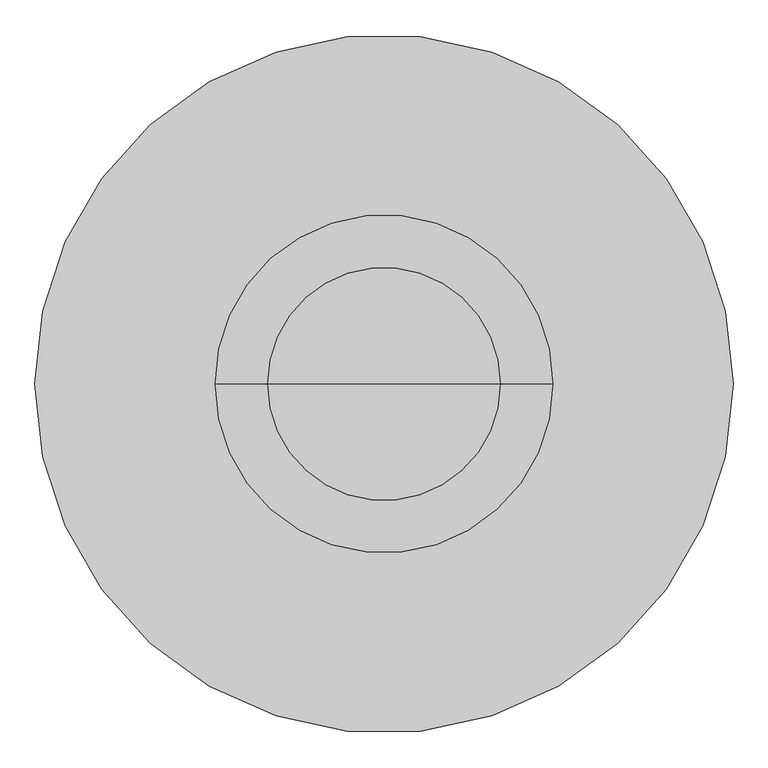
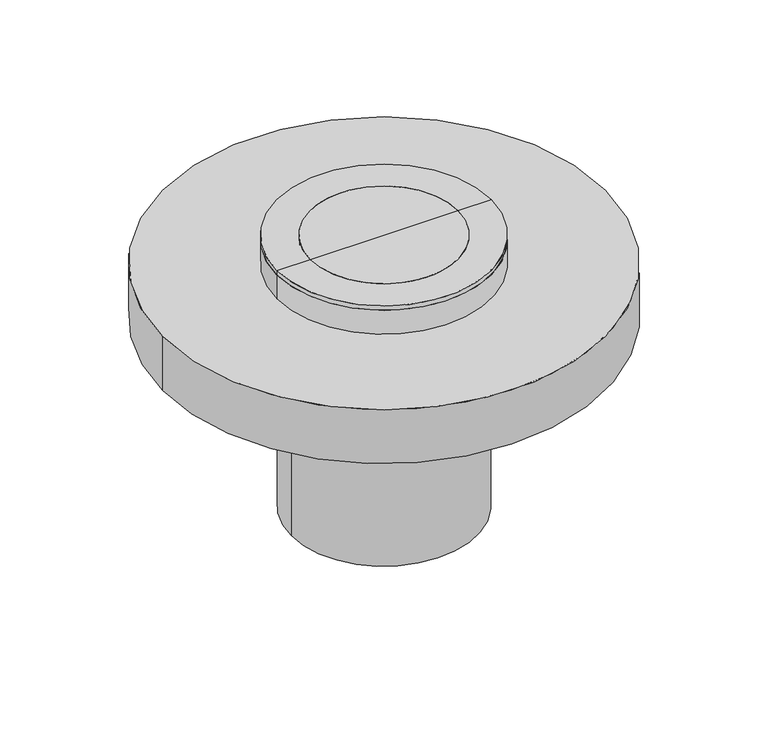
"""IFC4 building model written with IfcOpenShell, lengths in millimetres: unitary equipment geometry, ME_PE_UN_Mulimax loadclass D400_ACO : Duo cover screwed shut odour-proof."""

import ifcopenshell
import ifcopenshell.guid

model = None  # the IFC model being written
_history = None  # IfcOwnerHistory: only IFC2X3 demands one
_inside = {}  # id of a spatial element -> (the spatial element, [elements in it])
_under = {}  # id of a project, library or spatial element -> (it, [spatial elements below it])
_declared = {}  # id of a project -> (the project, [libraries it declares])
_typed = {}  # id of a type object -> (the type object, [elements of that type])
_made_of = {}  # id of a material, layer set ... -> (it, [elements and type objects made of it])


def new_model(schema):
    """Start an empty IFC model of exactly this schema.

    Asked for "IFC4X3", IfcOpenShell would pick the latest addendum, in which some entities
    have other attributes; the version numbers below select the first issue.
    IFC2X3 requires an IfcOwnerHistory on every rooted entity: one is made here for all.
    """
    global model, _history
    if schema == "IFC4X3":
        model = ifcopenshell.file(schema_version=(4, 3, 0, 0))
    else:
        model = ifcopenshell.file(schema=schema)
    _inside.clear()
    _under.clear()
    _declared.clear()
    _typed.clear()
    _made_of.clear()
    _history = None
    if model.schema == "IFC2X3":
        org = make("IfcOrganization", Name="unknown")
        user = make(
            "IfcPersonAndOrganization",
            ThePerson=make("IfcPerson", FamilyName="unknown"),
            TheOrganization=org,
        )
        app = make(
            "IfcApplication",
            ApplicationDeveloper=org,
            Version="unknown",
            ApplicationFullName="unknown",
            ApplicationIdentifier="unknown",
        )
        _history = make(
            "IfcOwnerHistory",
            OwningUser=user,
            OwningApplication=app,
            ChangeAction="ADDED",
            CreationDate=0,
        )
    return model


def make(cls, **values):
    """One entity of the class cls with the attributes given. An attribute that is None is left unset."""
    return model.create_entity(
        cls, **{name: value for name, value in values.items() if value is not None}
    )


def rooted(cls, **values):
    """An entity with a GlobalId (a new one), such as an element, a storey or a relation."""
    return make(cls, GlobalId=ifcopenshell.guid.new(), OwnerHistory=_history, **values)


def si_unit(unit_type, name, prefix=None):
    """IfcSIUnit, for example si_unit("LENGTHUNIT", "METRE", prefix="MILLI")."""
    return make("IfcSIUnit", UnitType=unit_type, Prefix=prefix, Name=name)


def assignment(units):
    """IfcUnitAssignment: the units of a project."""
    return None if units is None else make("IfcUnitAssignment", Units=units)


def point(xyz):
    """IfcCartesianPoint."""
    return None if xyz is None else make("IfcCartesianPoint", Coordinates=xyz)


def direction(xyz):
    """IfcDirection."""
    return None if xyz is None else make("IfcDirection", DirectionRatios=xyz)


def frame(location, z_axis=None, x_axis=None):
    """IfcAxis2Placement3D, a coordinate frame: its origin and axes. An axis left out is left unset."""
    return make(
        "IfcAxis2Placement3D",
        Location=point(location),
        Axis=direction(z_axis),
        RefDirection=direction(x_axis),
    )


def frame_2d(location, x_axis=None):
    """IfcAxis2Placement2D, a coordinate frame in the plane: its origin and x axis."""
    return make(
        "IfcAxis2Placement2D", Location=point(location), RefDirection=direction(x_axis)
    )


def origin():
    """The frame at (0, 0, 0) with its axes left unset."""
    return frame((0.0, 0.0, 0.0))


def origin_2d():
    """The frame at (0, 0) in the plane with its x axis left unset."""
    return frame_2d((0.0, 0.0))


def place(relative_to, where):
    """IfcLocalPlacement: puts the frame where relative to a parent placement (None: the world)."""
    return make(
        "IfcLocalPlacement", PlacementRelTo=relative_to, RelativePlacement=where
    )


def context(
    kind, dimensions, precision=None, world=None, true_north=None, identifier=None
):
    """IfcGeometricRepresentationContext, for example the 3D "Model" context."""
    return make(
        "IfcGeometricRepresentationContext",
        ContextIdentifier=identifier,
        ContextType=kind,
        CoordinateSpaceDimension=dimensions,
        Precision=precision,
        WorldCoordinateSystem=world,
        TrueNorth=true_north,
    )


def project(units=None, contexts=None):
    """IfcProject with its units and contexts."""
    return rooted(
        "IfcProject",
        Name="project",
        RepresentationContexts=contexts,
        UnitsInContext=assignment(units),
    )


def spatial(cls, under=None, at=None, **own):
    """A site, building, storey or space (cls), placed at a placement, below another one or the project."""
    s = rooted(cls, ObjectPlacement=at, **own)
    if under is not None:
        _under.setdefault(under.id(), (under, []))[1].append(s)
    return s


def polyline(points):
    """IfcPolyline through the points."""
    return make("IfcPolyline", Points=[point(p) for p in points])


def circle_curve(where, radius):
    """IfcCircle in the frame where."""
    return make("IfcCircle", Position=where, Radius=radius)


def trimmed(basis, trim1, trim2, sense, master):
    """IfcTrimmedCurve: the piece of a basis curve between two trims."""
    return make(
        "IfcTrimmedCurve",
        BasisCurve=basis,
        Trim1=trim1,
        Trim2=trim2,
        SenseAgreement=sense,
        MasterRepresentation=master,
    )


def segment(curve, same_sense, transition):
    """IfcCompositeCurveSegment."""
    return make(
        "IfcCompositeCurveSegment",
        Transition=transition,
        SameSense=same_sense,
        ParentCurve=curve,
    )


def composite_curve(segments, self_intersect=None):
    """IfcCompositeCurve: segments joined end to end."""
    return make("IfcCompositeCurve", Segments=segments, SelfIntersect=self_intersect)


def outline(outer, holes=None, kind="AREA"):
    """IfcArbitraryClosedProfileDef: a profile drawn as a closed curve; with holes, ...WithVoids."""
    if holes is None:
        return make("IfcArbitraryClosedProfileDef", ProfileType=kind, OuterCurve=outer)
    return make(
        "IfcArbitraryProfileDefWithVoids",
        ProfileType=kind,
        OuterCurve=outer,
        InnerCurves=holes,
    )


def extrude(swept, where, along, depth):
    """IfcExtrudedAreaSolid: the profile swept, set in the frame where, extruded along a direction by depth."""
    return make(
        "IfcExtrudedAreaSolid",
        SweptArea=swept,
        Position=where,
        ExtrudedDirection=direction(along),
        Depth=depth,
    )


def shape(context_of_items, identifier, shape_type, items):
    """IfcShapeRepresentation: the items that make up one representation, for example the "Body"."""
    return make(
        "IfcShapeRepresentation",
        ContextOfItems=context_of_items,
        RepresentationIdentifier=identifier,
        RepresentationType=shape_type,
        Items=items,
    )


def source(mapping_origin, context_of_items, identifier, shape_type, items):
    """IfcRepresentationMap: a shape defined once, which mapped items show again and again."""
    return make(
        "IfcRepresentationMap",
        MappingOrigin=mapping_origin,
        MappedRepresentation=shape(context_of_items, identifier, shape_type, items),
    )


def transform(
    local_origin,
    x_axis=None,
    y_axis=None,
    z_axis=None,
    scale=None,
    scale2=None,
    scale3=None,
    uniform=True,
):
    """IfcCartesianTransformationOperator3D, or its non-uniform kind. x_axis, y_axis, z_axis: its Axis1, 2, 3."""
    if uniform:
        return make(
            "IfcCartesianTransformationOperator3D",
            Axis1=direction(x_axis),
            Axis2=direction(y_axis),
            LocalOrigin=point(local_origin),
            Scale=scale,
            Axis3=direction(z_axis),
        )
    return make(
        "IfcCartesianTransformationOperator3DnonUniform",
        Axis1=direction(x_axis),
        Axis2=direction(y_axis),
        LocalOrigin=point(local_origin),
        Scale=scale,
        Axis3=direction(z_axis),
        Scale2=scale2,
        Scale3=scale3,
    )


def mapped(mapping_source, mapping_target):
    """IfcMappedItem: shows the shape of a source again, moved by a transform."""
    return make(
        "IfcMappedItem", MappingSource=mapping_source, MappingTarget=mapping_target
    )


def made_of(thing, what):
    """Note that an element or type object is made of a material, layer set ...; save() writes the relation."""
    if what is not None:
        _made_of.setdefault(what.id(), (what, []))[1].append(thing)
    return thing


def element(
    cls,
    number,
    at=None,
    inside=None,
    cuts=None,
    type_object=None,
    material=None,
    context=None,
    identifier="Body",
    shape_type=None,
    held_by="IfcProductDefinitionShape",
    body=None,
    shapes=None,
    **own,
):
    """One element of the class cls, such as IfcWall. Its Tag is "e" and its number.

    at: its placement. inside: the storey or other place that contains it. cuts: it is an
    opening in that element (IfcRelVoidsElement). A single representation is given by context,
    identifier, shape_type and body (its items); several are given by shapes. held_by: the class
    of the entity that holds the representations. save() writes the other relations.
    """
    e = rooted(cls, Tag="e%d" % number, ObjectPlacement=at, **own)
    if body is not None:
        shapes = [shape(context, identifier, shape_type, body)]
    if shapes is not None:
        e.Representation = make(held_by, Representations=shapes)
    if inside is not None:
        _inside.setdefault(inside.id(), (inside, []))[1].append(e)
    if cuts is not None:
        rooted(
            "IfcRelVoidsElement", RelatingBuildingElement=cuts, RelatedOpeningElement=e
        )
    if type_object is not None:
        _typed.setdefault(type_object.id(), (type_object, []))[1].append(e)
    return made_of(e, material)


def aggregate(whole, parts):
    """IfcRelAggregates: a whole, such as a stair, and the parts it consists of."""
    return rooted("IfcRelAggregates", RelatingObject=whole, RelatedObjects=parts)


def save(model, path):
    """Write the relations noted so far, then the file.

    IfcRelAggregates (storeys below a building ...), IfcRelContainedInSpatialStructure (elements
    in a storey), IfcRelDefinesByType, IfcRelAssociatesMaterial and IfcRelDeclares: one each for
    every whole, place, type object, material and project.
    """
    for whole, parts in _under.values():
        aggregate(whole, parts)
    for where, things in _inside.values():
        rooted(
            "IfcRelContainedInSpatialStructure",
            RelatedElements=things,
            RelatingStructure=where,
        )
    for kind, things in _typed.values():
        rooted("IfcRelDefinesByType", RelatedObjects=things, RelatingType=kind)
    for what, things in _made_of.values():
        rooted("IfcRelAssociatesMaterial", RelatedObjects=things, RelatingMaterial=what)
    for by, libraries in _declared.values():
        rooted("IfcRelDeclares", RelatingContext=by, RelatedDefinitions=libraries)
    model.write(path)


def plane_surface(at):
    """IfcPlane: the flat surface through the origin of the frame at, square to its z axis."""
    return make("IfcPlane", Position=at)


def cylinder_surface(at, radius):
    """IfcCylindricalSurface: all points at the distance radius from the z axis of the frame at."""
    return make("IfcCylindricalSurface", Position=at, Radius=radius)


def revolved_surface(curve, axis_point, axis_direction):
    """IfcSurfaceOfRevolution: the curve turned about the line through axis_point along axis_direction."""
    return make(
        "IfcSurfaceOfRevolution",
        SweptCurve=make("IfcArbitraryOpenProfileDef", ProfileType="CURVE", Curve=curve),
        AxisPosition=make("IfcAxis1Placement", Location=point(axis_point), Axis=direction(axis_direction)),
    )


def advanced_brep(points, edges, surfaces, faces):
    """IfcAdvancedBrep: a solid bounded by faces that lie on surfaces and meet in shared edges.

    An edge is (start, end): straight between two places in points (the first is 0);
    or (start, end, curve); or (start, end, curve, False) where it runs against its curve.
    A face is (place in surfaces, loops), or (place, loops, False) where it looks against
    its surface's normal. A loop lists edges by number (the first is 1), with a minus sign
    where the edge is run from its end to its start. The first loop is the outer one.
    """
    corners = [point(p) for p in points]
    vertices = [make("IfcVertexPoint", VertexGeometry=c) for c in corners]
    made = []
    for start, end, *more in edges:
        made.append(
            make(
                "IfcEdgeCurve",
                EdgeStart=vertices[start],
                EdgeEnd=vertices[end],
                EdgeGeometry=more[0] if more else make("IfcPolyline", Points=[corners[start], corners[end]]),
                SameSense=more[1] if len(more) > 1 else True,
            )
        )
    hull = []
    for where, loops, *sense in faces:
        bounds = []
        for j, loop in enumerate(loops):
            ring = [make("IfcOrientedEdge", EdgeElement=made[abs(k) - 1], Orientation=k > 0) for k in loop]
            bounds.append(
                make(
                    "IfcFaceOuterBound" if j == 0 else "IfcFaceBound",
                    Bound=make("IfcEdgeLoop", EdgeList=ring),
                    Orientation=True,
                )
            )
        hull.append(make("IfcAdvancedFace", Bounds=bounds, FaceSurface=surfaces[where], SameSense=sense[0] if sense else True))
    return make("IfcAdvancedBrep", Outer=make("IfcClosedShell", CfsFaces=hull))


def unitary_equipment_ed9c1b00(model_context):
    return source(origin(), model_context, "Body", "SolidModel", [
        advanced_brep(
        [(375.0, 0.0, -16.5155912), (-375.0, 0.0, -16.5155912), (-258.4234365, 0.0, -16.5155912), (258.4234365, 0.0, -16.5155912), (375.0, 0.0, -125.0), (-375.0, 0.0, -125.0), (0.0, 0.0, -125.0), (258.4234365, 0.0, 0.0), (-258.4234365, 0.0, 0.0), (0.0, 0.0, 0.0)],
        [
            (0, 1, circle_curve(frame((0.0, 0.0, -16.5155912), z_axis=(0.0, 0.0, 1.0), x_axis=(-1.0, 0.0, 0.0)), 375.0)),
            (1, 2),
            (2, 3, circle_curve(frame((0.0, 0.0, -16.5155912), z_axis=(0.0, 0.0, -1.0), x_axis=(-1.0, 0.0, 0.0)), 258.4234365)),
            (3, 0),
            (1, 0, circle_curve(frame((0.0, 0.0, -16.5155912), z_axis=(0.0, 0.0, 1.0), x_axis=(-1.0, 0.0, 0.0)), 375.0)),
            (3, 2, circle_curve(frame((0.0, 0.0, -16.5155912), z_axis=(0.0, 0.0, -1.0), x_axis=(-1.0, 0.0, 0.0)), 258.4234365)),
            (4, 5, circle_curve(frame((0.0, 0.0, -125.0), z_axis=(0.0, 0.0, 1.0), x_axis=(-1.0, 0.0, 0.0)), 375.0)),
            (5, 1),
            (0, 4),
            (5, 4, circle_curve(frame((0.0, 0.0, -125.0), z_axis=(0.0, 0.0, 1.0), x_axis=(-1.0, 0.0, 0.0)), 375.0)),
            (6, 5),
            (4, 6),
            (7, 8, circle_curve(frame((0.0, 0.0, 0.0), z_axis=(0.0, 0.0, 1.0), x_axis=(-1.0, 0.0, 0.0)), 258.4234365)),
            (8, 9),
            (9, 7),
            (8, 7, circle_curve(frame((0.0, 0.0, 0.0), z_axis=(0.0, 0.0, 1.0), x_axis=(-1.0, 0.0, 0.0)), 258.4234365)),
            (2, 8),
            (7, 3),
        ],
        [
            plane_surface(frame((0.0, 0.0, -16.5155912), z_axis=(0.0, 0.0, 1.0), x_axis=(-1.0, 0.0, 0.0))),
            cylinder_surface(frame((0.0, 0.0, 108.4844088), z_axis=(0.0, 0.0, -1.0), x_axis=(-1.0, 0.0, 0.0)), 375.0),
            plane_surface(frame((0.0, 0.0, -125.0), z_axis=(0.0, 0.0, -1.0), x_axis=(-1.0, 0.0, 0.0))),
            plane_surface(frame((0.0, 0.0, 0.0), z_axis=(0.0, 0.0, 1.0), x_axis=(-1.0, 0.0, 0.0))),
            cylinder_surface(frame((0.0, 0.0, 108.4844088), z_axis=(0.0, 0.0, -1.0), x_axis=(-1.0, 0.0, 0.0)), 258.4234365),
        ],
        [
            (0, [[1, 2, 3, 4]]),
            (0, [[5, -4, 6, -2]]),
            (1, [[7, 8, -1, 9]]),
            (1, [[10, -9, -5, -8]]),
            (2, [[11, -7, 12]]),
            (2, [[-12, -10, -11]]),
            (3, [[13, 14, 15]]),
            (3, [[16, -15, -14]]),
            (4, [[-3, 17, -13, 18]]),
            (4, [[-6, -18, -16, -17]]),
        ],
    ),
        advanced_brep(
        [(375.0, 0.0, 0.0), (-375.0, 0.0, 0.0), (-258.1778212, 0.0, 0.0), (258.1778212, 0.0, 0.0), (375.0, 0.0, -16.5155912), (-375.0, 0.0, -16.5155912), (258.1778212, 0.0, -16.5155912), (-258.1778212, 0.0, -16.5155912)],
        [
            (0, 1, circle_curve(frame((0.0, 0.0, 0.0), z_axis=(0.0, 0.0, 1.0), x_axis=(-1.0, 0.0, 0.0)), 375.0)),
            (1, 2),
            (2, 3, circle_curve(frame((0.0, 0.0, 0.0), z_axis=(0.0, 0.0, -1.0), x_axis=(-1.0, 0.0, 0.0)), 258.1778212)),
            (3, 0),
            (1, 0, circle_curve(frame((0.0, 0.0, 0.0), z_axis=(0.0, 0.0, 1.0), x_axis=(-1.0, 0.0, 0.0)), 375.0)),
            (3, 2, circle_curve(frame((0.0, 0.0, 0.0), z_axis=(0.0, 0.0, -1.0), x_axis=(-1.0, 0.0, 0.0)), 258.1778212)),
            (4, 5, circle_curve(frame((0.0, 0.0, -16.5155912), z_axis=(0.0, 0.0, 1.0), x_axis=(-1.0, 0.0, 0.0)), 375.0)),
            (5, 1),
            (0, 4),
            (5, 4, circle_curve(frame((0.0, 0.0, -16.5155912), z_axis=(0.0, 0.0, 1.0), x_axis=(-1.0, 0.0, 0.0)), 375.0)),
            (6, 7, circle_curve(frame((0.0, 0.0, -16.5155912), z_axis=(0.0, 0.0, 1.0), x_axis=(-1.0, 0.0, 0.0)), 258.1778212)),
            (7, 5),
            (4, 6),
            (7, 6, circle_curve(frame((0.0, 0.0, -16.5155912), z_axis=(0.0, 0.0, 1.0), x_axis=(-1.0, 0.0, 0.0)), 258.1778212)),
            (2, 7),
            (6, 3),
        ],
        [
            plane_surface(frame((0.0, 0.0, 0.0), z_axis=(0.0, 0.0, 1.0), x_axis=(-1.0, 0.0, 0.0))),
            cylinder_surface(frame((0.0, 0.0, 115.0), z_axis=(0.0, 0.0, -1.0), x_axis=(-1.0, 0.0, 0.0)), 375.0),
            plane_surface(frame((0.0, 0.0, -16.5155912), z_axis=(0.0, 0.0, -1.0), x_axis=(-1.0, 0.0, 0.0))),
            revolved_surface(polyline([(-258.1778212, 0.0, -16.51559119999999), (-258.1778212, 0.0, 0.0)]), (0.0, 0.0, 115.0), (0.0, 0.0, -1.0)),
        ],
        [
            (0, [[1, 2, 3, 4]]),
            (0, [[5, -4, 6, -2]]),
            (1, [[7, 8, -1, 9]]),
            (1, [[10, -9, -5, -8]]),
            (2, [[11, 12, -7, 13]]),
            (2, [[14, -13, -10, -12]]),
            (3, [[-3, 15, -11, 16]]),
            (3, [[-6, -16, -14, -15]]),
        ],
    ),
        advanced_brep(
        [(-317.0, 0.0, -125.6765838), (317.0, 0.0, -125.6765838), (325.0, 0.0, -125.6765838), (-325.0, 0.0, -125.6765838), (-317.0, 0.0, -1000.0), (317.0, 0.0, -1000.0), (-325.0, 0.0, -1000.0), (325.0, 0.0, -1000.0)],
        [
            (0, 1, circle_curve(frame((0.0, 0.0, -125.6765838), z_axis=(0.0, 0.0, -1.0), x_axis=(1.0, 0.0, 0.0)), 317.0)),
            (1, 2),
            (2, 3, circle_curve(frame((0.0, 0.0, -125.6765838), z_axis=(0.0, 0.0, 1.0), x_axis=(1.0, 0.0, 0.0)), 325.0)),
            (3, 0),
            (1, 0, circle_curve(frame((0.0, 0.0, -125.6765838), z_axis=(0.0, 0.0, -1.0), x_axis=(1.0, 0.0, 0.0)), 317.0)),
            (3, 2, circle_curve(frame((0.0, 0.0, -125.6765838), z_axis=(0.0, 0.0, 1.0), x_axis=(1.0, 0.0, 0.0)), 325.0)),
            (4, 5, circle_curve(frame((0.0, 0.0, -1000.0), z_axis=(0.0, 0.0, -1.0), x_axis=(1.0, 0.0, 0.0)), 317.0)),
            (5, 1),
            (0, 4),
            (5, 4, circle_curve(frame((0.0, 0.0, -1000.0), z_axis=(0.0, 0.0, -1.0), x_axis=(1.0, 0.0, 0.0)), 317.0)),
            (6, 7, circle_curve(frame((0.0, 0.0, -1000.0), z_axis=(0.0, 0.0, -1.0), x_axis=(1.0, 0.0, 0.0)), 325.0)),
            (7, 5),
            (4, 6),
            (7, 6, circle_curve(frame((0.0, 0.0, -1000.0), z_axis=(0.0, 0.0, -1.0), x_axis=(1.0, 0.0, 0.0)), 325.0)),
            (2, 7),
            (6, 3),
        ],
        [
            plane_surface(frame((0.0, 0.0, -125.6765838), z_axis=(0.0, 0.0, 1.0), x_axis=(1.0, 0.0, 0.0))),
            revolved_surface(polyline([(317.0, 0.0, -125.6765838), (317.0, 0.0, -1000.0)]), (0.0, 0.0, 100.0), (0.0, 0.0, 1.0)),
            plane_surface(frame((0.0, 0.0, -1000.0), z_axis=(0.0, 0.0, -1.0), x_axis=(1.0, 0.0, 0.0))),
            cylinder_surface(frame((0.0, 0.0, 100.0), z_axis=(0.0, 0.0, 1.0), x_axis=(1.0, 0.0, 0.0)), 325.0),
        ],
        [
            (0, [[1, 2, 3, 4]]),
            (0, [[5, -4, 6, -2]]),
            (1, [[7, 8, -1, 9]]),
            (1, [[10, -9, -5, -8]]),
            (2, [[11, 12, -7, 13]]),
            (2, [[14, -13, -10, -12]]),
            (3, [[-3, 15, -11, 16]]),
            (3, [[-6, -16, -14, -15]]),
        ],
    ),
        extrude(outline(composite_curve([segment(trimmed(circle_curve(origin_2d(), 775.0), [point((-775.0, 0.0))], [point((775.0, 0.0))], False, "CARTESIAN"), True, "CONTINUOUS"), segment(trimmed(circle_curve(origin_2d(), 775.0), [point((775.0, 0.0))], [point((-775.0, 0.0))], False, "CARTESIAN"), True, "CONTINUOUS")], self_intersect=False), holes=[composite_curve([segment(trimmed(circle_curve(origin_2d(), 325.0), [point((-325.0, 0.0))], [point((325.0, 0.0))], True, "CARTESIAN"), True, "CONTINUOUS"), segment(trimmed(circle_curve(origin_2d(), 325.0), [point((325.0, 0.0))], [point((-325.0, 0.0))], True, "CARTESIAN"), True, "CONTINUOUS")], self_intersect=False)]), frame((0.0, 0.0, -305.0), z_axis=(0.0, 0.0, 1.0), x_axis=(1.0, 0.0, 0.0)), (0.0, 0.0, 1.0), 200.0),
    ])


if __name__ == "__main__":
    model = new_model("IFC4")
    model_context = context("Model", 3, world=origin())
    ifc_project = project(units=[si_unit("LENGTHUNIT", "METRE", prefix="MILLI")], contexts=[model_context])
    site = spatial("IfcSite", under=ifc_project)
    building = spatial("IfcBuilding", under=site)
    placement = place(None, origin())
    unitary_equipment_shape = unitary_equipment_ed9c1b00(model_context)
    element("IfcUnitaryEquipment", 1, ObjectType="ME_PE_UN_Mulimax loadclass D400_ACO : Duo cover screwed shut odour-proof", at=placement, inside=building, context=model_context, shape_type="MappedRepresentation", body=[
        mapped(unitary_equipment_shape, transform((0.0, 0.0, 0.0), x_axis=(1.0, 0.0, 0.0), y_axis=(0.0, 1.0, 0.0), z_axis=(0.0, 0.0, 1.0))),
    ])
    save(model, "model.ifc")
